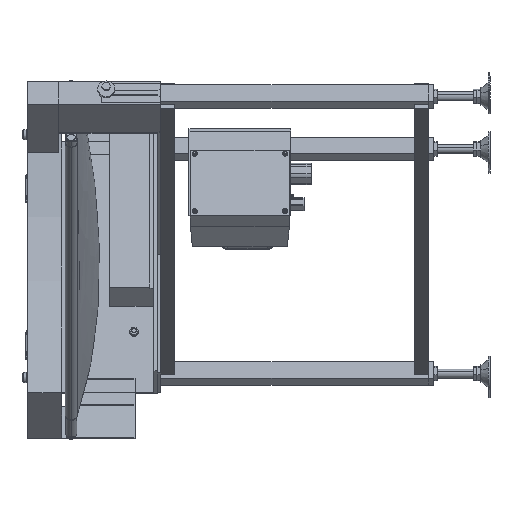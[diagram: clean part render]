
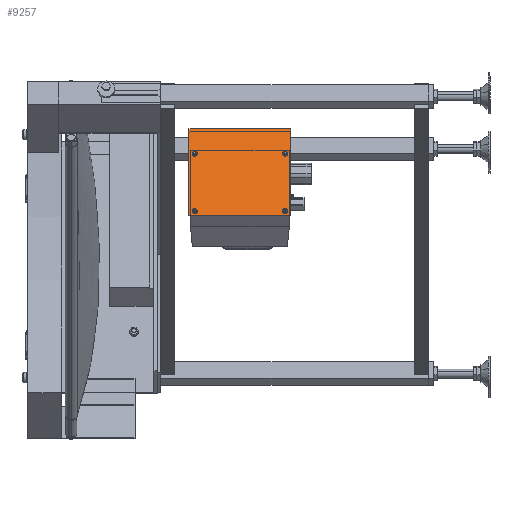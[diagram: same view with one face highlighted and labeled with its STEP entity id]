
A CAD part, left-side view. The second image highlights one B-rep face of the part: STEP entity #9257.
In plain terms, the highlighted planar face has unit normal (-0.924, 0, 0.383).
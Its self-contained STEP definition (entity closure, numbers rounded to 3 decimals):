
#750 = PLANE ( 'NONE',  #13645 ) ;
#1089 = VERTEX_POINT ( 'NONE', #29548 ) ;
#1204 = VECTOR ( 'NONE', #5444, 1000. ) ;
#2483 = DIRECTION ( 'NONE',  ( 0.383, 0., 0.924 ) ) ;
#3242 = DIRECTION ( 'NONE',  ( 0.924, 0., -0.383 ) ) ;
#4015 = CIRCLE ( 'NONE', #42824, 4.5 ) ;
#4604 = ORIENTED_EDGE ( 'NONE', *, *, #35335, .F. ) ;
#5444 = DIRECTION ( 'NONE',  ( 0., 1., 0. ) ) ;
#5770 = EDGE_CURVE ( 'NONE', #10259, #20929, #41192, .T. ) ;
#5804 = DIRECTION ( 'NONE',  ( 0.924, 0., -0.383 ) ) ;
#6244 = VECTOR ( 'NONE', #2483, 1000. ) ;
#6289 = VERTEX_POINT ( 'NONE', #20299 ) ;
#7821 = CARTESIAN_POINT ( 'NONE',  ( 666.245, -227.5, -226.178 ) ) ;
#8233 = CARTESIAN_POINT ( 'NONE',  ( 664.523, -387.5, -230.335 ) ) ;
#8544 = DIRECTION ( 'NONE',  ( 0.924, 0., -0.383 ) ) ;
#8716 = DIRECTION ( 'NONE',  ( -0.383, 0., -0.924 ) ) ;
#9178 = VERTEX_POINT ( 'NONE', #25425 ) ;
#9257 = ADVANCED_FACE ( 'NONE', ( #11269, #13572, #32542, #43968, #13004 ), #750, .T. ) ;
#9992 = EDGE_LOOP ( 'NONE', ( #36660, #42065 ) ) ;
#10173 = VERTEX_POINT ( 'NONE', #46730 ) ;
#10189 = EDGE_LOOP ( 'NONE', ( #41790, #4604, #18279, #46677 ) ) ;
#10259 = VERTEX_POINT ( 'NONE', #22957 ) ;
#10281 = DIRECTION ( 'NONE',  ( 0.924, 0., -0.383 ) ) ;
#10510 = VERTEX_POINT ( 'NONE', #45719 ) ;
#11269 = FACE_BOUND ( 'NONE', #38731, .T. ) ;
#11324 = DIRECTION ( 'NONE',  ( 0.383, 0., 0.924 ) ) ;
#11437 = AXIS2_PLACEMENT_3D ( 'NONE', #11561, #44568, #22612 ) ;
#11548 = CARTESIAN_POINT ( 'NONE',  ( 664.523, -387.5, -230.335 ) ) ;
#11561 = CARTESIAN_POINT ( 'NONE',  ( 706.619, -227.5, -128.709 ) ) ;
#11978 = ORIENTED_EDGE ( 'NONE', *, *, #26836, .T. ) ;
#13004 = FACE_OUTER_BOUND ( 'NONE', #10189, .T. ) ;
#13229 = DIRECTION ( 'NONE',  ( 0.924, 0., -0.383 ) ) ;
#13548 = EDGE_LOOP ( 'NONE', ( #32370, #17470 ) ) ;
#13572 = FACE_BOUND ( 'NONE', #13548, .T. ) ;
#13645 = AXIS2_PLACEMENT_3D ( 'NONE', #18685, #18984, #11324 ) ;
#14073 = AXIS2_PLACEMENT_3D ( 'NONE', #38835, #5804, #38997 ) ;
#14091 = LINE ( 'NONE', #42960, #45646 ) ;
#14194 = AXIS2_PLACEMENT_3D ( 'NONE', #31971, #17666, #39168 ) ;
#14557 = EDGE_CURVE ( 'NONE', #26518, #19919, #25208, .T. ) ;
#15061 = CARTESIAN_POINT ( 'NONE',  ( 666.245, -387.5, -226.178 ) ) ;
#16187 = AXIS2_PLACEMENT_3D ( 'NONE', #21213, #13229, #46265 ) ;
#17470 = ORIENTED_EDGE ( 'NONE', *, *, #32496, .T. ) ;
#17666 = DIRECTION ( 'NONE',  ( 0.924, 0., -0.383 ) ) ;
#18279 = ORIENTED_EDGE ( 'NONE', *, *, #5770, .T. ) ;
#18526 = AXIS2_PLACEMENT_3D ( 'NONE', #11548, #33233, #21946 ) ;
#18685 = CARTESIAN_POINT ( 'NONE',  ( 661.653, -397.5, -237.264 ) ) ;
#18963 = LINE ( 'NONE', #27401, #1204 ) ;
#18984 = DIRECTION ( 'NONE',  ( -0.924, 0., 0.383 ) ) ;
#19919 = VERTEX_POINT ( 'NONE', #36509 ) ;
#20299 = CARTESIAN_POINT ( 'NONE',  ( 661.653, -217.5, -237.264 ) ) ;
#20467 = CIRCLE ( 'NONE', #14073, 4.5 ) ;
#20921 = EDGE_CURVE ( 'NONE', #9178, #21612, #45910, .T. ) ;
#20929 = VERTEX_POINT ( 'NONE', #29196 ) ;
#20986 = CARTESIAN_POINT ( 'NONE',  ( 664.523, -227.5, -230.335 ) ) ;
#21104 = LINE ( 'NONE', #42710, #6244 ) ;
#21213 = CARTESIAN_POINT ( 'NONE',  ( 706.619, -387.5, -128.709 ) ) ;
#21220 = EDGE_CURVE ( 'NONE', #27341, #10510, #4015, .T. ) ;
#21392 = AXIS2_PLACEMENT_3D ( 'NONE', #20986, #10281, #25151 ) ;
#21612 = VERTEX_POINT ( 'NONE', #15061 ) ;
#21946 = DIRECTION ( 'NONE',  ( -0.383, 0., -0.924 ) ) ;
#22284 = DIRECTION ( 'NONE',  ( -0.383, 0., -0.924 ) ) ;
#22438 = EDGE_CURVE ( 'NONE', #6289, #10173, #21104, .T. ) ;
#22612 = DIRECTION ( 'NONE',  ( -0.383, 0., -0.924 ) ) ;
#22957 = CARTESIAN_POINT ( 'NONE',  ( 661.653, -397.5, -237.264 ) ) ;
#24775 = CIRCLE ( 'NONE', #31695, 4.5 ) ;
#25151 = DIRECTION ( 'NONE',  ( -0.383, 0., -0.924 ) ) ;
#25197 = ORIENTED_EDGE ( 'NONE', *, *, #20921, .T. ) ;
#25208 = CIRCLE ( 'NONE', #21392, 4.5 ) ;
#25425 = CARTESIAN_POINT ( 'NONE',  ( 662.801, -387.5, -234.493 ) ) ;
#26234 = ORIENTED_EDGE ( 'NONE', *, *, #36586, .T. ) ;
#26518 = VERTEX_POINT ( 'NONE', #7821 ) ;
#26836 = EDGE_CURVE ( 'NONE', #21612, #9178, #24775, .T. ) ;
#27026 = CIRCLE ( 'NONE', #14194, 4.5 ) ;
#27341 = VERTEX_POINT ( 'NONE', #28575 ) ;
#27346 = EDGE_CURVE ( 'NONE', #19919, #26518, #27026, .T. ) ;
#27401 = CARTESIAN_POINT ( 'NONE',  ( 724.796, -397.5, -84.824 ) ) ;
#27949 = CARTESIAN_POINT ( 'NONE',  ( 661.653, -397.5, -237.264 ) ) ;
#27983 = VECTOR ( 'NONE', #42075, 1000. ) ;
#28494 = ORIENTED_EDGE ( 'NONE', *, *, #41301, .T. ) ;
#28575 = CARTESIAN_POINT ( 'NONE',  ( 704.896, -387.5, -132.866 ) ) ;
#29196 = CARTESIAN_POINT ( 'NONE',  ( 724.796, -397.5, -84.824 ) ) ;
#29548 = CARTESIAN_POINT ( 'NONE',  ( 708.341, -227.5, -124.551 ) ) ;
#31695 = AXIS2_PLACEMENT_3D ( 'NONE', #8233, #8544, #8716 ) ;
#31763 = DIRECTION ( 'NONE',  ( 0., 1., 0. ) ) ;
#31971 = CARTESIAN_POINT ( 'NONE',  ( 664.523, -227.5, -230.335 ) ) ;
#32370 = ORIENTED_EDGE ( 'NONE', *, *, #21220, .T. ) ;
#32464 = CARTESIAN_POINT ( 'NONE',  ( 704.896, -227.5, -132.866 ) ) ;
#32496 = EDGE_CURVE ( 'NONE', #10510, #27341, #47435, .T. ) ;
#32542 = FACE_BOUND ( 'NONE', #9992, .T. ) ;
#33233 = DIRECTION ( 'NONE',  ( 0.924, 0., -0.383 ) ) ;
#33500 = VERTEX_POINT ( 'NONE', #32464 ) ;
#35335 = EDGE_CURVE ( 'NONE', #10259, #6289, #14091, .T. ) ;
#36094 = CARTESIAN_POINT ( 'NONE',  ( 706.619, -387.5, -128.709 ) ) ;
#36509 = CARTESIAN_POINT ( 'NONE',  ( 662.801, -227.5, -234.493 ) ) ;
#36586 = EDGE_CURVE ( 'NONE', #33500, #1089, #46100, .T. ) ;
#36660 = ORIENTED_EDGE ( 'NONE', *, *, #27346, .T. ) ;
#38731 = EDGE_LOOP ( 'NONE', ( #25197, #11978 ) ) ;
#38835 = CARTESIAN_POINT ( 'NONE',  ( 706.619, -227.5, -128.709 ) ) ;
#38997 = DIRECTION ( 'NONE',  ( -0.383, 0., -0.924 ) ) ;
#39168 = DIRECTION ( 'NONE',  ( -0.383, 0., -0.924 ) ) ;
#41192 = LINE ( 'NONE', #27949, #27983 ) ;
#41301 = EDGE_CURVE ( 'NONE', #1089, #33500, #20467, .T. ) ;
#41790 = ORIENTED_EDGE ( 'NONE', *, *, #22438, .F. ) ;
#41909 = EDGE_LOOP ( 'NONE', ( #26234, #28494 ) ) ;
#42065 = ORIENTED_EDGE ( 'NONE', *, *, #14557, .T. ) ;
#42075 = DIRECTION ( 'NONE',  ( 0.383, 0., 0.924 ) ) ;
#42710 = CARTESIAN_POINT ( 'NONE',  ( 661.653, -217.5, -237.264 ) ) ;
#42824 = AXIS2_PLACEMENT_3D ( 'NONE', #36094, #3242, #22284 ) ;
#42960 = CARTESIAN_POINT ( 'NONE',  ( 661.653, -397.5, -237.264 ) ) ;
#43675 = EDGE_CURVE ( 'NONE', #20929, #10173, #18963, .T. ) ;
#43968 = FACE_BOUND ( 'NONE', #41909, .T. ) ;
#44568 = DIRECTION ( 'NONE',  ( 0.924, 0., -0.383 ) ) ;
#45646 = VECTOR ( 'NONE', #31763, 1000. ) ;
#45719 = CARTESIAN_POINT ( 'NONE',  ( 708.341, -387.5, -124.551 ) ) ;
#45910 = CIRCLE ( 'NONE', #18526, 4.5 ) ;
#46100 = CIRCLE ( 'NONE', #11437, 4.5 ) ;
#46265 = DIRECTION ( 'NONE',  ( -0.383, 0., -0.924 ) ) ;
#46677 = ORIENTED_EDGE ( 'NONE', *, *, #43675, .T. ) ;
#46730 = CARTESIAN_POINT ( 'NONE',  ( 724.796, -217.5, -84.824 ) ) ;
#47435 = CIRCLE ( 'NONE', #16187, 4.5 ) ;
